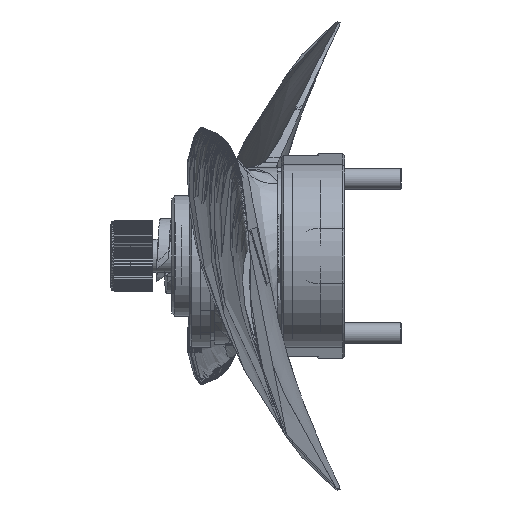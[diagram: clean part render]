
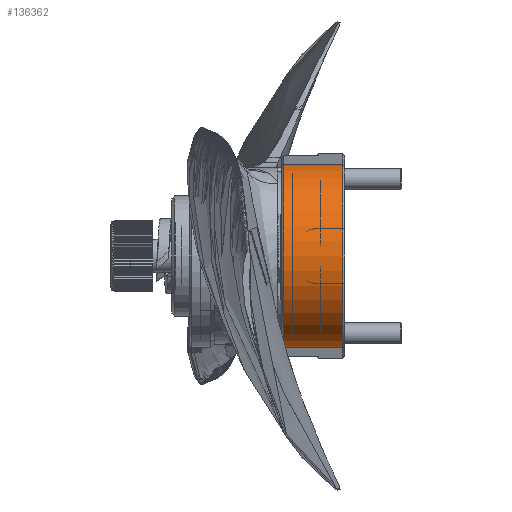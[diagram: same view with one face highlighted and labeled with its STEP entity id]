
A CAD part, left-side view. The second image highlights one B-rep face of the part: STEP entity #136362.
In plain terms, the highlighted cylindrical face has radius 13 mm (diameter 26 mm), a partial arc.
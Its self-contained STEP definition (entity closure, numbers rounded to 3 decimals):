
#3248 = EDGE_CURVE ( 'NONE', #104592, #80039, #104444, .T. ) ;
#3415 = DIRECTION ( 'NONE',  ( 0., 0., -1. ) ) ;
#5819 = ORIENTED_EDGE ( 'NONE', *, *, #3248, .F. ) ;
#11712 = CIRCLE ( 'NONE', #33515, 13. ) ;
#12188 = CARTESIAN_POINT ( 'NONE',  ( -40.699, -12.981, 0. ) ) ;
#16917 = CARTESIAN_POINT ( 'NONE',  ( -40.699, 12.981, -0.3 ) ) ;
#18715 = CARTESIAN_POINT ( 'NONE',  ( -40., 0., 0. ) ) ;
#19369 = AXIS2_PLACEMENT_3D ( 'NONE', #18715, #3415, #160562 ) ;
#20464 = LINE ( 'NONE', #43596, #125858 ) ;
#21840 = DIRECTION ( 'NONE',  ( 1., 0., 0. ) ) ;
#33515 = AXIS2_PLACEMENT_3D ( 'NONE', #115781, #140572, #21840 ) ;
#41032 = AXIS2_PLACEMENT_3D ( 'NONE', #110001, #162110, #74077 ) ;
#42478 = VECTOR ( 'NONE', #166857, 1000. ) ;
#43596 = CARTESIAN_POINT ( 'NONE',  ( -40.699, 12.981, 0. ) ) ;
#49433 = ORIENTED_EDGE ( 'NONE', *, *, #121000, .T. ) ;
#68320 = ORIENTED_EDGE ( 'NONE', *, *, #147757, .T. ) ;
#70050 = DIRECTION ( 'NONE',  ( 0., 0., -1. ) ) ;
#72418 = ORIENTED_EDGE ( 'NONE', *, *, #117958, .T. ) ;
#74077 = DIRECTION ( 'NONE',  ( 1., 0., 0. ) ) ;
#80039 = VERTEX_POINT ( 'NONE', #84476 ) ;
#84476 = CARTESIAN_POINT ( 'NONE',  ( -40.699, -12.981, -8.7 ) ) ;
#93644 = VERTEX_POINT ( 'NONE', #123834 ) ;
#102432 = EDGE_LOOP ( 'NONE', ( #49433, #68320, #5819, #72418 ) ) ;
#104444 = LINE ( 'NONE', #12188, #42478 ) ;
#104592 = VERTEX_POINT ( 'NONE', #152702 ) ;
#105953 = CYLINDRICAL_SURFACE ( 'NONE', #19369, 13. ) ;
#108447 = FACE_OUTER_BOUND ( 'NONE', #102432, .T. ) ;
#110001 = CARTESIAN_POINT ( 'NONE',  ( -40., 0., -0.3 ) ) ;
#114671 = CIRCLE ( 'NONE', #41032, 13. ) ;
#115781 = CARTESIAN_POINT ( 'NONE',  ( -40., 0., -8.7 ) ) ;
#117628 = VERTEX_POINT ( 'NONE', #16917 ) ;
#117958 = EDGE_CURVE ( 'NONE', #104592, #117628, #114671, .T. ) ;
#121000 = EDGE_CURVE ( 'NONE', #117628, #93644, #20464, .T. ) ;
#123834 = CARTESIAN_POINT ( 'NONE',  ( -40.699, 12.981, -8.7 ) ) ;
#125858 = VECTOR ( 'NONE', #70050, 1000. ) ;
#136362 = ADVANCED_FACE ( 'NONE', ( #108447 ), #105953, .T. ) ;
#140572 = DIRECTION ( 'NONE',  ( 0., 0., 1. ) ) ;
#147757 = EDGE_CURVE ( 'NONE', #93644, #80039, #11712, .T. ) ;
#152702 = CARTESIAN_POINT ( 'NONE',  ( -40.699, -12.981, -0.3 ) ) ;
#160562 = DIRECTION ( 'NONE',  ( -1., 0., 0. ) ) ;
#162110 = DIRECTION ( 'NONE',  ( 0., 0., -1. ) ) ;
#166857 = DIRECTION ( 'NONE',  ( 0., 0., -1. ) ) ;
